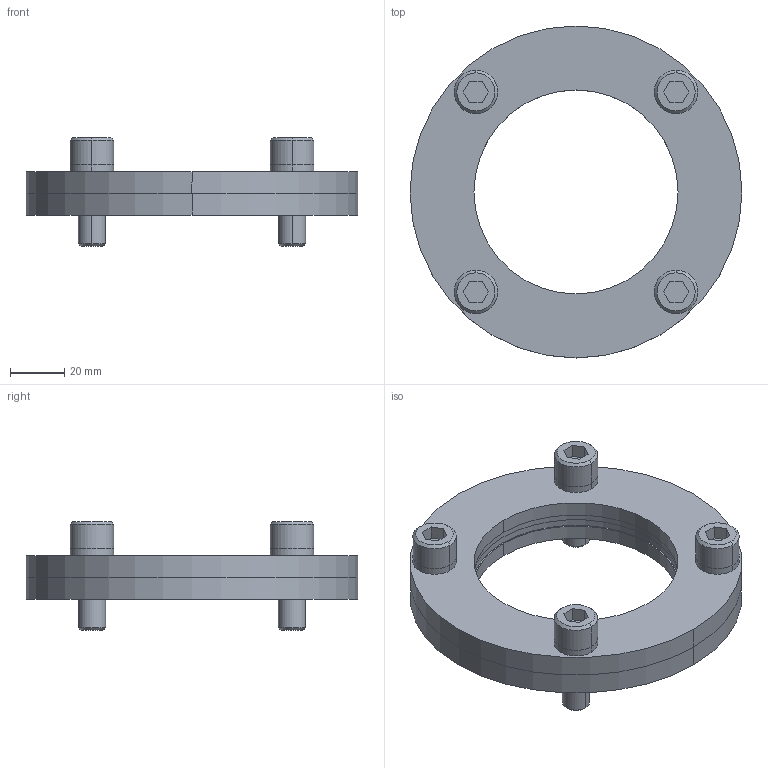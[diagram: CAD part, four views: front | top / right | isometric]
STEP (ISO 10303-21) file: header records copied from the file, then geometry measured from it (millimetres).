
FILE_DESCRIPTION(/* description */ (''),/* implementation_level */ '2;1');
FILE_NAME(/* name */ '3d_kf75_04242_r00.stp',/* time_stamp */ '2011-01-10T14:14:22+09:00',/* author */ ('MISUMI'),/* organization */ (''),/* preprocessor_version */ 'ST-DEVELOPER v11',/* originating_system */ 'UGS - NX 5.0',/* authorisation */ '');
FILE_SCHEMA (('CONFIG_CONTROL_DESIGN'));
Length unit declared in the file: millimetre
Products named in the file (1): 3d_kf75_04242_r00
Bounding box: 122 x 122 x 40 mm (x, y, z)
Volume: 127074.2 mm3; surface area: 49216.5 mm2
Topology: 10 solids, 10 shells, 130 faces, 284 edges, 184 vertices
Faces by surface type: cylinder 60, plane 54, cone 16
Entity records: 3720 total; most frequent: DIRECTION 682, CARTESIAN_POINT 599, ORIENTED_EDGE 568, EDGE_CURVE 284, AXIS2_PLACEMENT_3D 267, VERTEX_POINT 184, EDGE_LOOP 168, LINE 148
